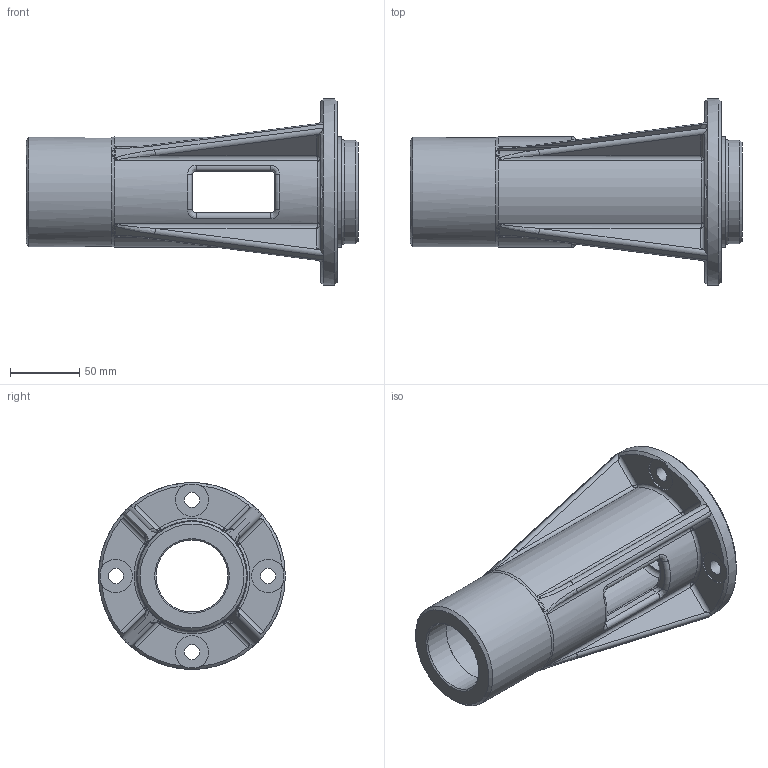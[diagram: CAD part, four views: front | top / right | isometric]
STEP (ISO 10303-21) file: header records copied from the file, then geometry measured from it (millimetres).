
FILE_DESCRIPTION(/* description */ (''),/* implementation_level */ '2;1');
FILE_NAME(/* name */ 'L:\DOKUMENT_DB\Arbeitsordner_Ba\Fachmodule\XXFMFL1_d\Links\Gehaeuse.stp',/* time_stamp */ '2020-01-23T09:00:25+01:00',/* author */ ('ba'),/* organization */ (''),/* preprocessor_version */ 'ST-DEVELOPER v18',/* originating_system */ 'Autodesk Inventor 2020',/* authorisation */ '');
FILE_SCHEMA (('AUTOMOTIVE_DESIGN { 1 0 10303 214 3 1 1 }'));
Length unit declared in the file: millimetre
Products named in the file (1): Gehaeuse
Bounding box: 240 x 135 x 135 mm (x, y, z)
Volume: 693893.3 mm3; surface area: 139064.3 mm2
Topology: 1 solids, 1 shells, 201 faces, 526 edges, 322 vertices
Faces by surface type: cylinder 67, plane 62, bspline 40, cone 17, torus 15
Full cylindrical faces by diameter (mm): 11 x4, 52 x4, 55 x2, 60 x1, 75 x1, 79 x1, 80 x1, 135 x1
Entity records: 7609 total; most frequent: CARTESIAN_POINT 2879, ORIENTED_EDGE 1020, DIRECTION 939, EDGE_CURVE 510, AXIS2_PLACEMENT_3D 403, VERTEX_POINT 318, EDGE_LOOP 222, FACE_OUTER_BOUND 201
